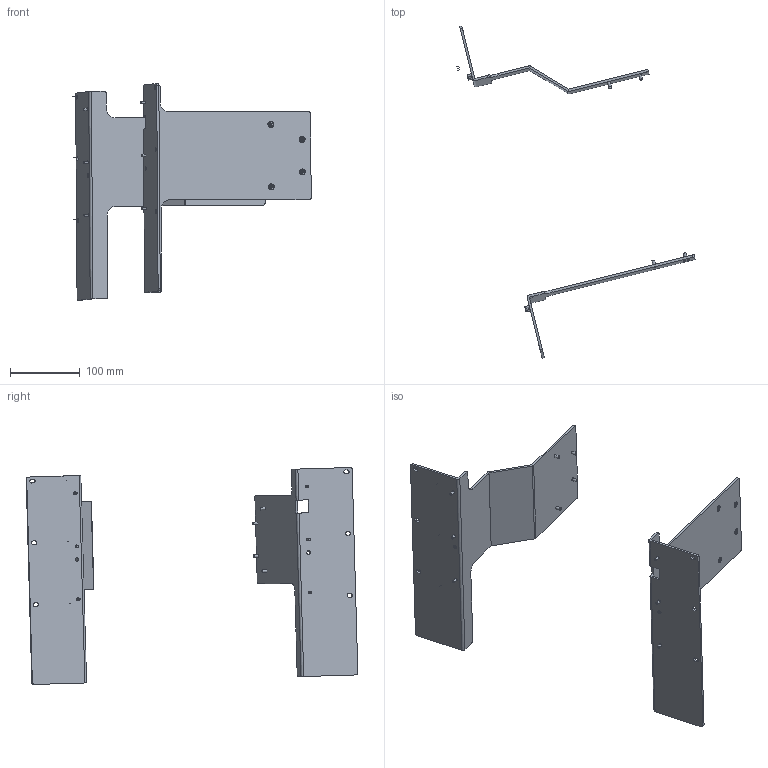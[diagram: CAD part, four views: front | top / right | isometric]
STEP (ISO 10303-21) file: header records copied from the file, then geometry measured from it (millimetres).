
FILE_DESCRIPTION((''),'2;1');
FILE_NAME('C:\old_Drawings\shrinkwrapped website .stp files\561060X-STP.stp','2011-08-11T11:02:15',('GaryRobinson'),(''),'Autodesk Inventor 2011','Autodesk Inventor 2011','');
FILE_SCHEMA(('AUTOMOTIVE_DESIGN { 1 0 10303 214 1 1 1 1 }'));
Length unit declared in the file: inch
Products named in the file (1): 561060X-STP
Bounding box: 342.76 x 477 x 311.99 mm (x, y, z)
Surface area: 252462.8 mm2 (no closed solid volume)
Topology: 0 solids, 19 shells, 499 faces, 987 edges, 538 vertices
Faces by surface type: plane 330, cylinder 135, cone 34
Full cylindrical faces by diameter (mm): 0.025 x3, 3.505 x6, 3.962 x6, 4 x8, 4.089 x8, 5.105 x1, 5.334 x1
Entity records: 12567 total; most frequent: DIRECTION 2208, CARTESIAN_POINT 1926, ORIENTED_EDGE 1808, EDGE_CURVE 904, AXIS2_PLACEMENT_3D 804, EDGE_LOOP 624, VECTOR 600, LINE 600
